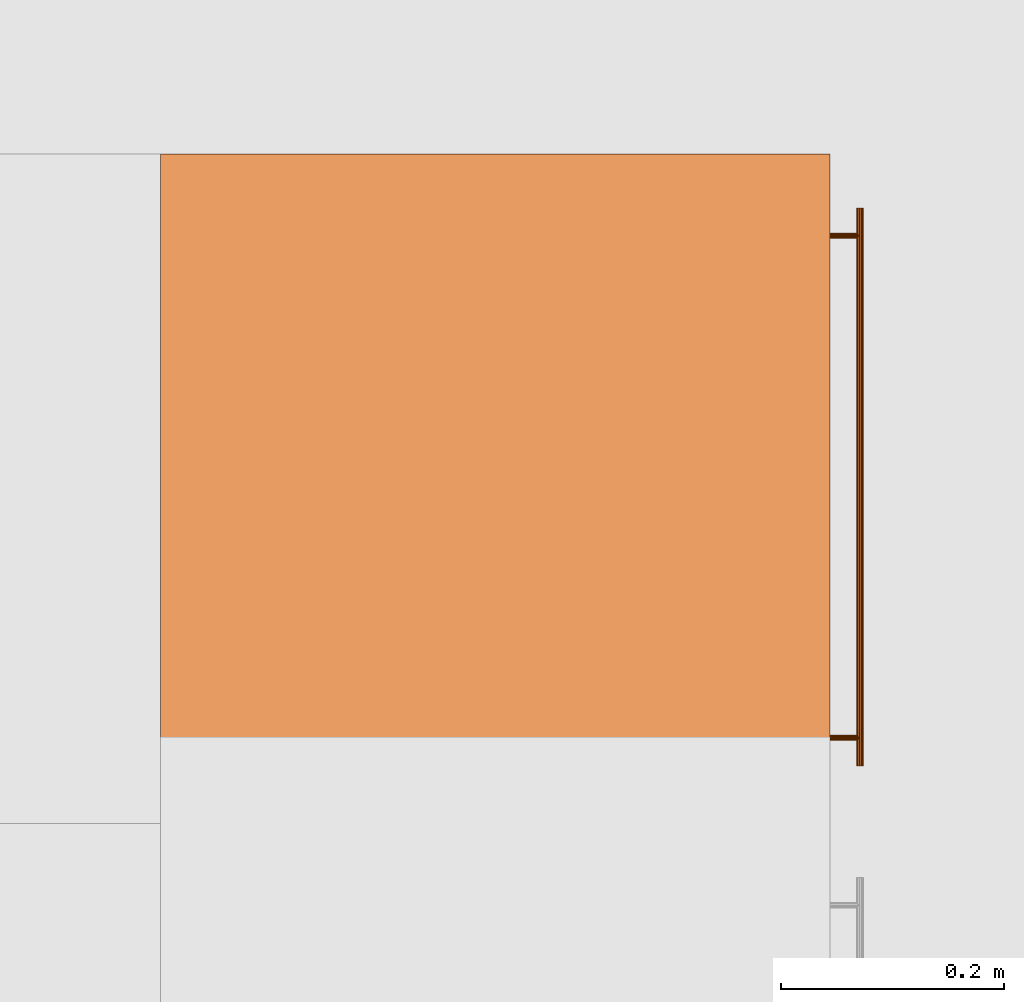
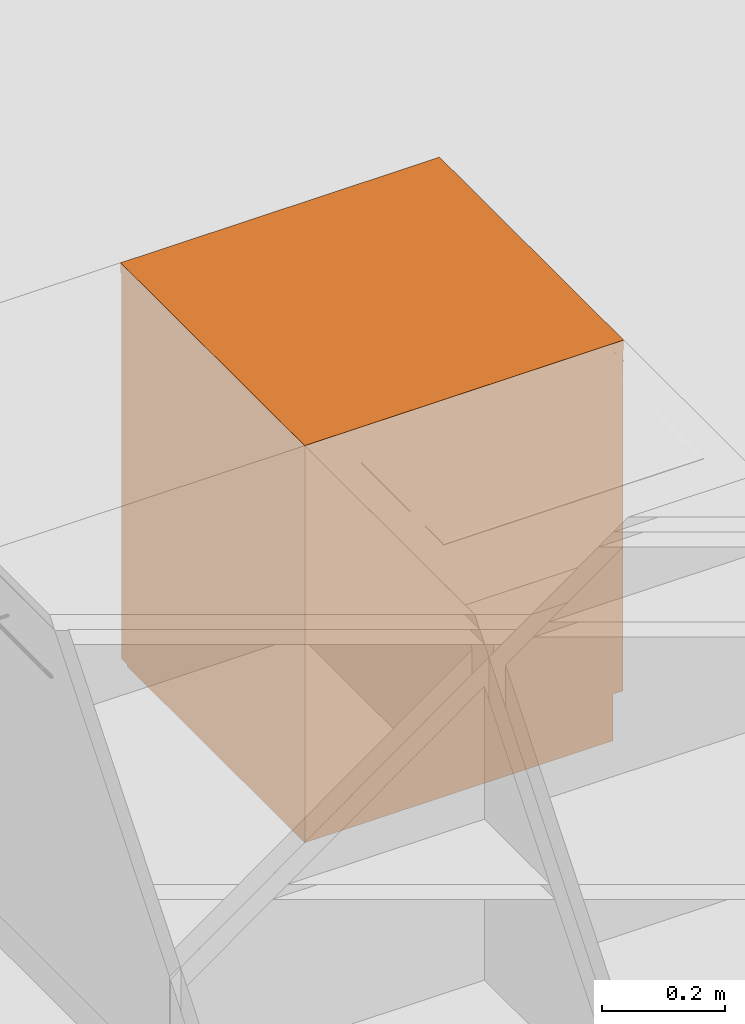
# One storey, part 148 of 167: 1 proxy.
"""IFC2X3 building model written with IfcOpenShell, lengths in millimetres."""

from ifc_helpers import new_model, entity, si_unit, converted_unit, derived_unit, money_unit, direction, frame, origin_with_axes, place, context, subcontext, project, spatial, open_shell, faceted_brep, surface_model, type_object, element, save


model = new_model("IFC2X3")

# Units and contexts
model_context = context("Model", 3, precision=0.01, world=origin_with_axes(), true_north=direction((0.0, 1.0)))
plan_context = context("Plan", 3, precision=0.01, world=origin_with_axes(), true_north=direction((0.0, 1.0)))
body_context = subcontext(model_context, "Body", "Model", "MODEL_VIEW")
ifc_project = project(units=[si_unit("LENGTHUNIT", "METRE", prefix="MILLI"), si_unit("AREAUNIT", "SQUARE_METRE"), si_unit("VOLUMEUNIT", "CUBIC_METRE"), converted_unit("PLANEANGLEUNIT", "DEGREE", entity("IfcPlaneAngleMeasure", 0.0174532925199), si_unit("PLANEANGLEUNIT", "RADIAN"), dimensions=[0, 0, 0, 0, 0, 0, 0]), si_unit("SOLIDANGLEUNIT", "STERADIAN"), money_unit("EUR"), converted_unit("TIMEUNIT", "Year", entity("IfcTimeMeasure", 31556926.0), si_unit("TIMEUNIT", "SECOND"), dimensions=[0, 0, 1, 0, 0, 0, 0]), si_unit("MASSUNIT", "GRAM", prefix="KILO"), si_unit("THERMODYNAMICTEMPERATUREUNIT", "DEGREE_CELSIUS"), si_unit("LUMINOUSINTENSITYUNIT", "LUMEN"), si_unit("ENERGYUNIT", "JOULE", prefix="MEGA"), derived_unit("THERMALCONDUCTANCEUNIT", [(si_unit("POWERUNIT", "WATT"), 1), (si_unit("LENGTHUNIT", "METRE"), -1), (si_unit("THERMODYNAMICTEMPERATUREUNIT", "KELVIN"), -1)]), derived_unit("SPECIFICHEATCAPACITYUNIT", [(si_unit("ENERGYUNIT", "JOULE"), 1), (si_unit("MASSUNIT", "GRAM", prefix="KILO"), -1), (si_unit("THERMODYNAMICTEMPERATUREUNIT", "KELVIN"), -1)]), derived_unit("MASSDENSITYUNIT", [(si_unit("MASSUNIT", "GRAM", prefix="KILO"), 1), (si_unit("VOLUMEUNIT", "CUBIC_METRE"), -1)])], contexts=[model_context, plan_context])

# Site, building, storey
site_placement = place(None, origin_with_axes())
site = spatial("IfcSite", under=ifc_project, at=site_placement, Name="Site", CompositionType="ELEMENT")
building_placement = place(site_placement, origin_with_axes())
building = spatial("IfcBuilding", under=site, at=building_placement, Name="Naam gebouw", CompositionType="ELEMENT")
storey_placement = place(building_placement, origin_with_axes())
storey = spatial("IfcBuildingStorey", under=building, at=storey_placement, Name="Begane grond", CompositionType="ELEMENT", Elevation=0.0)

# Proxy
building_element_proxy_type = type_object("IfcBuildingElementProxyType", Name="Kast basis 1D 24", PredefinedType="NOTDEFINED")
proxy_placement = place(storey_placement, frame((26675.0, 28266.7322881, 0.0), z_axis=(0.0, 0.0, 1.0), x_axis=(0.0, 1.0, 0.0)))
element("IfcBuildingElementProxy", 1, at=proxy_placement, inside=storey, type_object=building_element_proxy_type, Name="__Object-x", context=body_context, shape_type="SurfaceModel", body=[
    faceted_brep([(-20.0, 20.0, 0.0), (-20.0, 20.0, 90.0), (-600.0, 20.0, 90.0), (-600.0, 20.0, 0.0), (-20.0, 600.0, 0.0), (-20.0, 600.0, 90.0), (-600.0, 600.0, 90.0), (-600.0, 600.0, 0.0)], [[[0, 1, 2, 3]], [[4, 5, 1, 0]], [[1, 5, 6, 2]], [[3, 2, 6, 7]], [[0, 3, 7, 4]], [[7, 6, 5, 4]]]),
    faceted_brep([(-20.0, 20.0, 750.0), (-20.0, 20.0, 770.0), (-40.0, 20.0, 770.0), (-40.0, 20.0, 750.0), (-20.0, 600.0, 750.0), (-20.0, 600.0, 770.0), (-40.0, 600.0, 770.0), (-580.0, 600.0, 770.0), (-600.0, 600.0, 770.0), (-600.0, 20.0, 770.0), (-580.0, 20.0, 770.0), (-580.0, 20.0, 750.0), (-600.0, 20.0, 750.0), (-600.0, 600.0, 750.0), (-580.0, 600.0, 750.0), (-40.0, 600.0, 750.0)], [[[0, 1, 2, 3]], [[4, 5, 1, 0]], [[1, 5, 6, 7, 8, 9, 10, 2]], [[3, 2, 10, 11]], [[0, 3, 11, 12, 13, 14, 15, 4]], [[15, 6, 5, 4]], [[14, 7, 6, 15]], [[13, 8, 7, 14]], [[12, 9, 8, 13]], [[11, 10, 9, 12]]]),
    faceted_brep([(-20.0, 20.0, 90.0), (-20.0, 20.0, 110.0), (-40.0, 20.0, 110.0), (-40.0, 20.0, 90.0), (-20.0, 600.0, 90.0), (-20.0, 600.0, 110.0), (-40.0, 600.0, 110.0), (-580.0, 600.0, 110.0), (-600.0, 600.0, 110.0), (-600.0, 20.0, 110.0), (-580.0, 20.0, 110.0), (-580.0, 20.0, 90.0), (-600.0, 20.0, 90.0), (-600.0, 600.0, 90.0), (-580.0, 600.0, 90.0), (-40.0, 600.0, 90.0)], [[[0, 1, 2, 3]], [[4, 5, 1, 0]], [[1, 5, 6, 7, 8, 9, 10, 2]], [[3, 2, 10, 11]], [[0, 3, 11, 12, 13, 14, 15, 4]], [[15, 6, 5, 4]], [[14, 7, 6, 15]], [[13, 8, 7, 14]], [[12, 9, 8, 13]], [[11, 10, 9, 12]]]),
    faceted_brep([(-20.0, 20.0, 110.0), (-20.0, 20.0, 750.0), (-40.0, 20.0, 750.0), (-40.0, 20.0, 110.0), (-20.0, 600.0, 110.0), (-20.0, 600.0, 750.0), (-600.0, 600.0, 750.0), (-600.0, 20.0, 750.0), (-580.0, 20.0, 750.0), (-580.0, 580.0, 750.0), (-40.0, 580.0, 750.0), (-40.0, 580.0, 110.0), (-580.0, 580.0, 110.0), (-580.0, 20.0, 110.0), (-600.0, 20.0, 110.0), (-600.0, 600.0, 110.0)], [[[0, 1, 2, 3]], [[4, 5, 1, 0]], [[1, 5, 6, 7, 8, 9, 10, 2]], [[3, 2, 10, 11]], [[0, 3, 11, 12, 13, 14, 15, 4]], [[15, 6, 5, 4]], [[14, 7, 6, 15]], [[13, 8, 7, 14]], [[12, 9, 8, 13]], [[11, 10, 9, 12]]]),
    faceted_brep([(-580.0, 20.0, 410.0), (-580.0, 20.0, 430.0), (-580.0, 580.0, 430.0), (-580.0, 580.0, 410.0), (-40.0, 20.0, 410.0), (-40.0, 20.0, 430.0), (-40.0, 580.0, 430.0), (-40.0, 580.0, 410.0)], [[[0, 1, 2, 3]], [[4, 5, 1, 0]], [[1, 5, 6, 2]], [[3, 2, 6, 7]], [[0, 3, 7, 4]], [[7, 6, 5, 4]]]),
    faceted_brep([(0.0, 0.0, 770.0), (0.0, 0.0, 790.0), (-600.0, 0.0, 790.0), (-600.0, 0.0, 770.0), (0.0, 600.0, 770.0), (0.0, 600.0, 790.0), (-600.0, 600.0, 790.0), (-600.0, 600.0, 770.0)], [[[0, 1, 2, 3]], [[4, 5, 1, 0]], [[1, 5, 6, 2]], [[3, 2, 6, 7]], [[0, 3, 7, 4]], [[7, 6, 5, 4]]]),
    faceted_brep([(-21.5, 20.0, 91.5), (-21.5, 0.0, 91.5), (-598.5, 0.0, 91.5), (-598.5, 20.0, 91.5), (-21.5, 20.0, 768.5), (-21.5, 0.0, 768.5), (-598.5, 0.0, 768.5), (-598.5, 20.0, 768.5)], [[[0, 1, 2, 3]], [[4, 5, 1, 0]], [[1, 5, 6, 2]], [[3, 2, 6, 7]], [[0, 3, 7, 4]], [[7, 6, 5, 4]]]),
    faceted_brep([(-48.5, -28.1480502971, 704.694261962), (-48.5, -27.0, 704.46590056), (-48.5, -25.8519497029, 704.694261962), (-48.5, -24.8786796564, 705.344580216), (-48.5, -24.2283614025, 706.317850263), (-48.5, -24.0, 707.46590056), (-48.5, -24.2283614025, 708.613950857), (-48.5, -24.8786796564, 709.587220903), (-48.5, -25.8519497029, 710.237539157), (-48.5, -27.0, 710.46590056), (-48.5, -28.1480502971, 710.237539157), (-48.5, -29.1213203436, 709.587220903), (-48.5, -29.7716385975, 708.613950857), (-48.5, -30.0, 707.46590056), (-48.5, -29.7716385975, 706.317850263), (-48.5, -29.1213203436, 705.344580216), (-548.5, -28.1480502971, 704.694261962), (-548.5, -27.0, 704.46590056), (-548.5, -25.8519497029, 704.694261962), (-548.5, -24.8786796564, 705.344580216), (-548.5, -24.2283614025, 706.317850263), (-548.5, -24.0, 707.46590056), (-548.5, -24.2283614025, 708.613950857), (-548.5, -24.8786796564, 709.587220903), (-548.5, -25.8519497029, 710.237539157), (-548.5, -27.0, 710.46590056), (-548.5, -28.1480502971, 710.237539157), (-548.5, -29.1213203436, 709.587220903), (-548.5, -29.7716385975, 708.613950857), (-548.5, -30.0, 707.46590056), (-548.5, -29.7716385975, 706.317850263), (-548.5, -29.1213203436, 705.344580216)], [[[0, 1, 2, 3, 4, 5, 6, 7, 8, 9, 10, 11, 12, 13, 14, 15]], [[0, 16, 17, 1]], [[1, 17, 18, 2]], [[2, 18, 19, 3]], [[3, 19, 20, 4]], [[4, 20, 21, 5]], [[5, 21, 22, 6]], [[6, 22, 23, 7]], [[7, 23, 24, 8]], [[8, 24, 25, 9]], [[9, 25, 26, 10]], [[10, 26, 27, 11]], [[11, 27, 28, 12]], [[12, 28, 29, 13]], [[13, 29, 30, 14]], [[14, 30, 31, 15]], [[15, 31, 16, 0]], [[16, 31, 30, 29, 28, 27, 26, 25, 24, 23, 22, 21, 20, 19, 18, 17]]]),
    surface_model("IfcShellBasedSurfaceModel", [(-71.1903011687, -24.156637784, 706.509191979), (-71.1903011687, 0.0, 706.509191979), (-71.0, 0.0, 707.46590056), (-71.0, -24.0, 707.46590056), (-71.732233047, -24.5761600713, 705.698133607), (-71.732233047, 0.0, 705.698133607), (-72.5432914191, 0.0, 705.156201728), (-73.5, 0.0, 704.96590056), (-74.4567085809, 0.0, 705.156201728), (-75.267766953, 0.0, 705.698133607), (-75.8096988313, 0.0, 706.509191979), (-76.0, 0.0, 707.46590056), (-75.8096988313, 0.0, 708.422609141), (-75.267766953, 0.0, 709.233667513), (-74.4567085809, 0.0, 709.775599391), (-73.5, 0.0, 709.96590056), (-72.5432914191, 0.0, 709.775599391), (-71.732233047, 0.0, 709.233667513), (-71.1903011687, 0.0, 708.422609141), (-71.1903011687, -24.156637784, 708.422609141), (-72.5432914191, -25.0855049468, 705.156201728), (-73.5, -25.3416876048, 704.96590056), (-74.4567085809, -25.0855049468, 705.156201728), (-75.267766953, -24.5761600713, 705.698133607), (-75.8096988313, -24.156637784, 706.509191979), (-76.0, -24.0, 707.46590056), (-75.8096988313, -24.156637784, 708.422609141), (-75.267766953, -24.5761600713, 709.233667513), (-74.4567085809, -25.0855049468, 709.775599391), (-73.5, -25.3416876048, 709.96590056), (-72.5432914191, -25.0855049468, 709.775599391), (-71.732233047, -24.5761600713, 709.233667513)], [open_shell([[[0, 1, 2, 3]], [[4, 5, 1, 0]], [[1, 5, 6, 7, 8, 9, 10, 11, 12, 13, 14, 15, 16, 17, 18, 2]], [[3, 2, 18, 19]], [[20, 6, 5, 4]], [[21, 7, 6, 20]], [[22, 8, 7, 21]], [[23, 9, 8, 22]], [[24, 10, 9, 23]], [[25, 11, 10, 24]], [[26, 12, 11, 25]], [[27, 13, 12, 26]], [[28, 14, 13, 27]], [[29, 15, 14, 28]], [[30, 16, 15, 29]], [[31, 17, 16, 30]], [[19, 18, 17, 31]]])]),
    surface_model("IfcShellBasedSurfaceModel", [(-521.190301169, -24.156637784, 706.509191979), (-521.190301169, 0.0, 706.509191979), (-521.0, 0.0, 707.46590056), (-521.0, -24.0, 707.46590056), (-521.732233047, -24.5761600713, 705.698133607), (-521.732233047, 0.0, 705.698133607), (-522.543291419, 0.0, 705.156201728), (-523.5, 0.0, 704.96590056), (-524.456708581, 0.0, 705.156201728), (-525.267766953, 0.0, 705.698133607), (-525.809698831, 0.0, 706.509191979), (-526.0, 0.0, 707.46590056), (-525.809698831, 0.0, 708.422609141), (-525.267766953, 0.0, 709.233667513), (-524.456708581, 0.0, 709.775599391), (-523.5, 0.0, 709.96590056), (-522.543291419, 0.0, 709.775599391), (-521.732233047, 0.0, 709.233667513), (-521.190301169, 0.0, 708.422609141), (-521.190301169, -24.156637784, 708.422609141), (-522.543291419, -25.0855049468, 705.156201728), (-523.5, -25.3416876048, 704.96590056), (-524.456708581, -25.0855049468, 705.156201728), (-525.267766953, -24.5761600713, 705.698133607), (-525.809698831, -24.156637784, 706.509191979), (-526.0, -24.0, 707.46590056), (-525.809698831, -24.156637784, 708.422609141), (-525.267766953, -24.5761600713, 709.233667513), (-524.456708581, -25.0855049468, 709.775599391), (-523.5, -25.3416876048, 709.96590056), (-522.543291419, -25.0855049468, 709.775599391), (-521.732233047, -24.5761600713, 709.233667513)], [open_shell([[[0, 1, 2, 3]], [[4, 5, 1, 0]], [[1, 5, 6, 7, 8, 9, 10, 11, 12, 13, 14, 15, 16, 17, 18, 2]], [[3, 2, 18, 19]], [[20, 6, 5, 4]], [[21, 7, 6, 20]], [[22, 8, 7, 21]], [[23, 9, 8, 22]], [[24, 10, 9, 23]], [[25, 11, 10, 24]], [[26, 12, 11, 25]], [[27, 13, 12, 26]], [[28, 14, 13, 27]], [[29, 15, 14, 28]], [[30, 16, 15, 29]], [[31, 17, 16, 30]], [[19, 18, 17, 31]]])]),
    faceted_brep([(-20.0, 598.5, 1.5), (0.0, 598.5, 1.5), (0.0, 21.5, 1.5), (-20.0, 21.5, 1.5), (-20.0, 598.5, 768.5), (0.0, 598.5, 768.5), (0.0, 21.5, 768.5), (-20.0, 21.5, 768.5)], [[[0, 1, 2, 3]], [[4, 5, 1, 0]], [[1, 5, 6, 2]], [[3, 2, 6, 7]], [[0, 3, 7, 4]], [[7, 6, 5, 4]]]),
])

save(model, "model.ifc")
